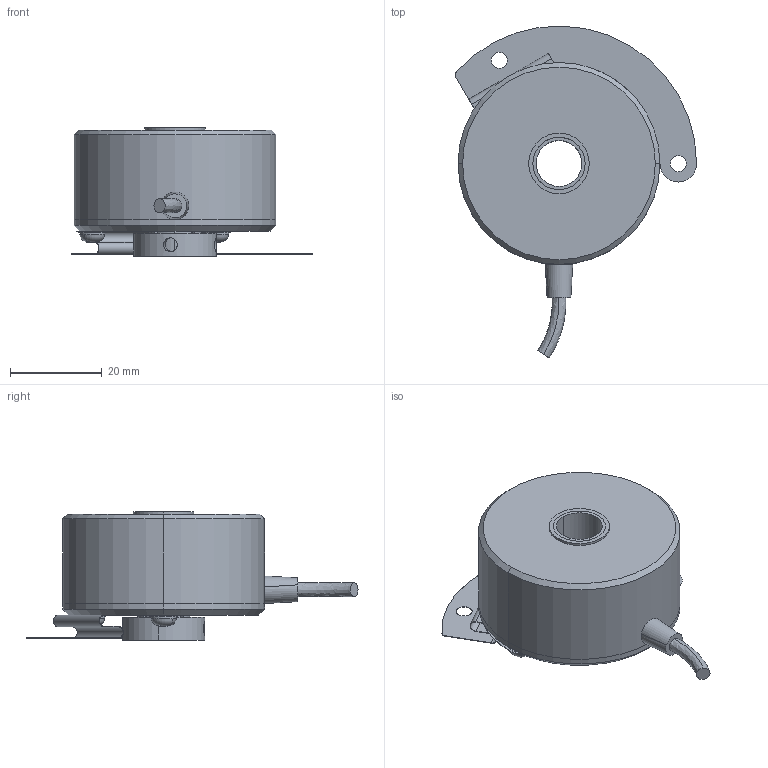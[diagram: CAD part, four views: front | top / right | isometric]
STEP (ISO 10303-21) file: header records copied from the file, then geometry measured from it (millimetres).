
FILE_DESCRIPTION (( 'STEP AP214' ), '1' );
FILE_NAME ('MH_Assem2.STEP', '2024-08-20T00:11:21', ( '' ), ( '' ), 'SwSTEP 2.0', 'SolidWorks 2023', '' );
FILE_SCHEMA (( 'AUTOMOTIVE_DESIGN' ));
Length unit declared in the file: millimetre
Products named in the file (9): SCREW M3 X6 MM; MH_Part2; MH_Assem2; ワッシャ M3; MH_Assem1; MH_Part5; MH_Part4; MH_Part3; MH_Part1
Assembly tree (10 placements, depth 3):
  MH_Assem2
    MH_Assem1
      MH_Part1
      MH_Part2
      MH_Part3
      MH_Part4
    MH_Part5
    ワッシャ M3  x2
    SCREW M3 X6 MM  x2
Bounding box: 52.58 x 72.35 x 28 mm (x, y, z)
Volume: 32798.8 mm3; surface area: 15314.9 mm2
Topology: 11 solids, 11 shells, 171 faces, 449 edges, 304 vertices
Faces by surface type: cylinder 73, plane 70, bspline 12, cone 12, torus 4
Entity records: 5175 total; most frequent: CARTESIAN_POINT 1258, DIRECTION 808, ORIENTED_EDGE 730, EDGE_CURVE 365, AXIS2_PLACEMENT_3D 326, VERTEX_POINT 244, CIRCLE 178, EDGE_LOOP 173
